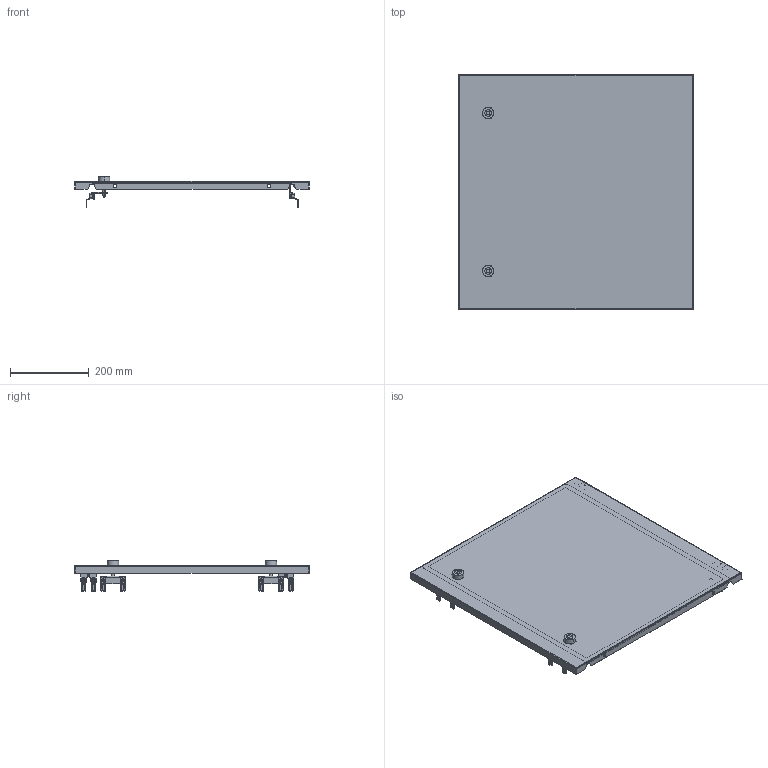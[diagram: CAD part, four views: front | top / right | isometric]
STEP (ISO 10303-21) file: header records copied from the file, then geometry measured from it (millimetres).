
FILE_DESCRIPTION(('CAx-IF Rec.Pracs.---Model Styling and Organization---1.2---2011-12-15','CAx-IF Rec.Pracs.---Geometric and Assembly Validation Properties---4.1---2014-06-16','CAx-IF Rec.Pracs.---PMI Polyline Presentation---2.0---2013-05-24'),'2;1');
FILE_NAME('R5M2WCPME12M.stp','2021-05-05T13:01:21+03:00',(''),(''),'STEP Interface 4.4 by CT CoreTechnologie','3D_Evolution4.4 by CT CoreTechnologie','');
FILE_SCHEMA(('AUTOMOTIVE_DESIGN { 1 0 10303 214 1 1 1 1 }'));
Length unit declared in the file: millimetre
Products named in the file (16): R5M2WCPME12M; AC00C485; M6 x 16-DIN 7991 ISR_thread; RB.0687.00.00.1_-00; MS737-1-1(1); MS737-1-1 Z_ ªàëâ; MS737-1-1 stop_fixed; AC00C745; RB.0116.00.00.2_-00; MS737-1-1(2); RB.1586.00.00.0 ÑÁ_-04 (R5M2WCPME12M); RB.1586.00.01.0_-04 (R5M2WCPME12M); PF 7x14 MCC2.0_0600x0600; AC00C266; Ì6õ12-A5100231_straight; AC00C061_AC00C061
Assembly tree (35 placements, depth 3):
  R5M2WCPME12M
    AC00C485  x8
    M6 x 16-DIN 7991 ISR_thread  x8
    RB.0687.00.00.1_-00  x2
    MS737-1-1(1)
      MS737-1-1 Z_ ªàëâ
      MS737-1-1 stop_fixed
    AC00C745  x2
    RB.0116.00.00.2_-00  x2
    MS737-1-1(2)
      MS737-1-1 Z_ ªàëâ
      MS737-1-1 stop_fixed
    RB.1586.00.00.0 ÑÁ_-04 (R5M2WCPME12M)
      RB.1586.00.01.0_-04 (R5M2WCPME12M)
      PF 7x14 MCC2.0_0600x0600
      AC00C266  x2
      Ì6õ12-A5100231_straight
      AC00C061_AC00C061
Bounding box: 594 x 595 x 77.45 mm (x, y, z)
Surface area: 931970.6 mm2 (no closed solid volume)
Topology: 0 solids, 50 shells, 1566 faces, 3902 edges, 2416 vertices
Faces by surface type: plane 662, cylinder 610, bspline 294
Entity records: 20948 total; most frequent: CARTESIAN_POINT 6453, ORIENTED_EDGE 2826, DIRECTION 2822, EDGE_CURVE 1413, AXIS2_PLACEMENT_3D 989, VERTEX_POINT 894, VECTOR 844, LINE 844
